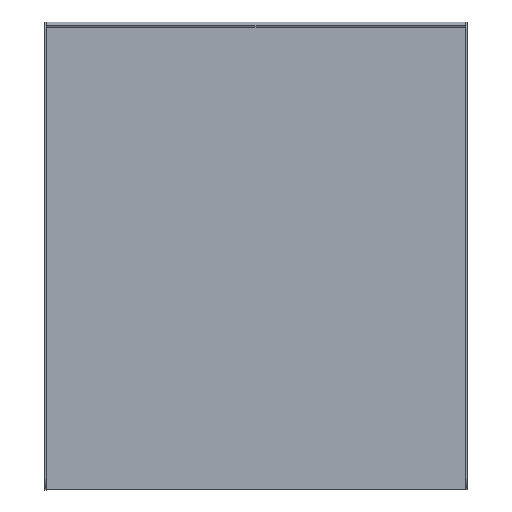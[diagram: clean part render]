
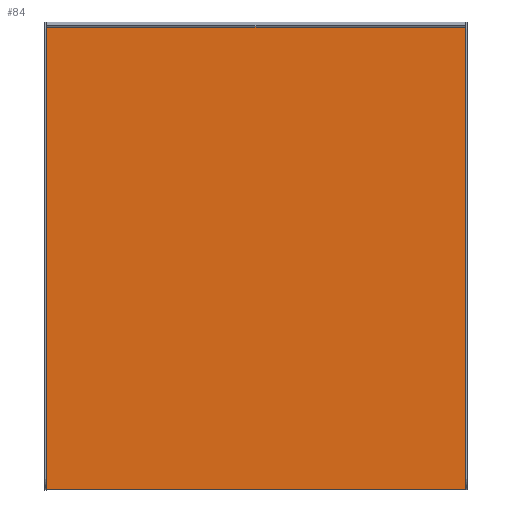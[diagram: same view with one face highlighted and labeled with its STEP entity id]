
A CAD part, front view. The second image highlights one B-rep face of the part: STEP entity #84.
In plain terms, the highlighted planar face has unit normal (0, -1, 0).
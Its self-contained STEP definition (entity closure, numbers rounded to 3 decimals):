
#77 = LINE ( 'NONE', #1823, #1092 ) ;
#84 = ADVANCED_FACE ( 'NONE', ( #1579 ), #177, .T. ) ;
#92 = EDGE_CURVE ( 'NONE', #1374, #1669, #1568, .T. ) ;
#98 = LINE ( 'NONE', #106, #704 ) ;
#106 = CARTESIAN_POINT ( 'NONE',  ( 497., 0., 447. ) ) ;
#138 = CARTESIAN_POINT ( 'NONE',  ( 497., 0., -447. ) ) ;
#146 = CARTESIAN_POINT ( 'NONE',  ( 0., 0., 0. ) ) ;
#169 = CARTESIAN_POINT ( 'NONE',  ( -497., 0., 447. ) ) ;
#177 = PLANE ( 'NONE',  #1410 ) ;
#217 = ORIENTED_EDGE ( 'NONE', *, *, #607, .F. ) ;
#286 = DIRECTION ( 'NONE',  ( 0., 0., 1. ) ) ;
#435 = CARTESIAN_POINT ( 'NONE',  ( -497., 0., 447. ) ) ;
#592 = VECTOR ( 'NONE', #1160, 1000. ) ;
#607 = EDGE_CURVE ( 'NONE', #727, #1374, #98, .T. ) ;
#626 = EDGE_LOOP ( 'NONE', ( #217, #946, #1188, #1053 ) ) ;
#704 = VECTOR ( 'NONE', #1714, 1000. ) ;
#727 = VERTEX_POINT ( 'NONE', #1250 ) ;
#732 = CARTESIAN_POINT ( 'NONE',  ( -497., 0., -447. ) ) ;
#833 = VECTOR ( 'NONE', #286, 1000. ) ;
#888 = EDGE_CURVE ( 'NONE', #1669, #1537, #1187, .T. ) ;
#946 = ORIENTED_EDGE ( 'NONE', *, *, #1194, .F. ) ;
#1009 = DIRECTION ( 'NONE',  ( 0., 0., -1. ) ) ;
#1053 = ORIENTED_EDGE ( 'NONE', *, *, #92, .F. ) ;
#1092 = VECTOR ( 'NONE', #1497, 1000. ) ;
#1160 = DIRECTION ( 'NONE',  ( -1., 0., 0. ) ) ;
#1187 = LINE ( 'NONE', #435, #833 ) ;
#1188 = ORIENTED_EDGE ( 'NONE', *, *, #888, .F. ) ;
#1194 = EDGE_CURVE ( 'NONE', #1537, #727, #77, .T. ) ;
#1250 = CARTESIAN_POINT ( 'NONE',  ( 497., 0., 447. ) ) ;
#1374 = VERTEX_POINT ( 'NONE', #138 ) ;
#1410 = AXIS2_PLACEMENT_3D ( 'NONE', #146, #1875, #1009 ) ;
#1497 = DIRECTION ( 'NONE',  ( 1., 0., 0. ) ) ;
#1537 = VERTEX_POINT ( 'NONE', #169 ) ;
#1568 = LINE ( 'NONE', #732, #592 ) ;
#1579 = FACE_OUTER_BOUND ( 'NONE', #626, .T. ) ;
#1669 = VERTEX_POINT ( 'NONE', #1747 ) ;
#1714 = DIRECTION ( 'NONE',  ( 0., 0., -1. ) ) ;
#1747 = CARTESIAN_POINT ( 'NONE',  ( -497., 0., -447. ) ) ;
#1823 = CARTESIAN_POINT ( 'NONE',  ( -497., 0., 447. ) ) ;
#1875 = DIRECTION ( 'NONE',  ( 0., -1., 0. ) ) ;
